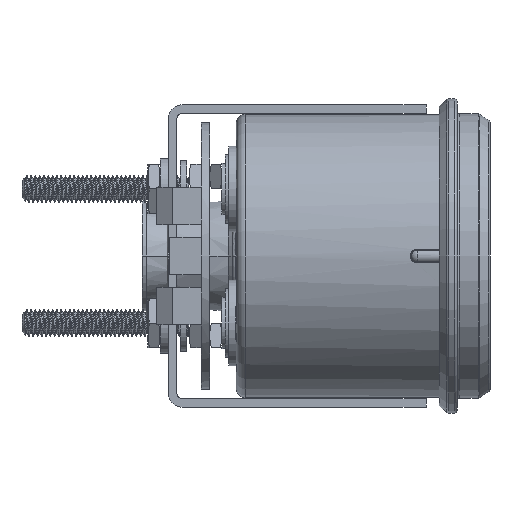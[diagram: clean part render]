
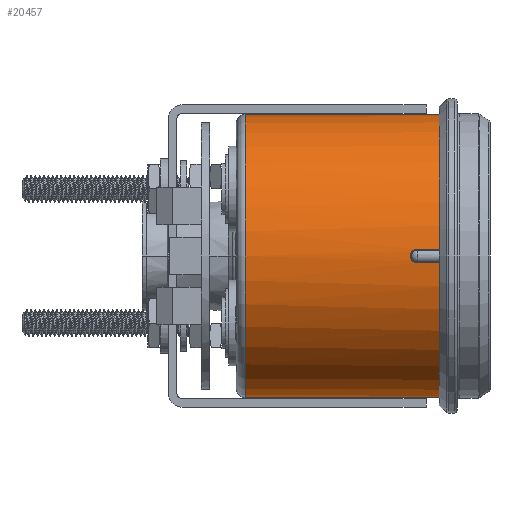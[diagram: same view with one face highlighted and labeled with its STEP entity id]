
A CAD part, front view. The second image highlights one B-rep face of the part: STEP entity #20457.
In plain terms, the highlighted cylindrical face has radius 26.162 mm (diameter 52.324 mm), a partial arc.
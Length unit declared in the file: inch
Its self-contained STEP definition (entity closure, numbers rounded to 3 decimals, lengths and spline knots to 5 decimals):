
#28 = CARTESIAN_POINT ( 'NONE',  ( -0.00637, -1.02878, 0.05013 ) ) ;
#370 = ORIENTED_EDGE ( 'NONE', *, *, #8531, .F. ) ;
#1699 = EDGE_CURVE ( 'NONE', #29066, #22178, #34816, .T. ) ;
#2431 = ORIENTED_EDGE ( 'NONE', *, *, #1699, .T. ) ;
#2566 = DIRECTION ( 'NONE',  ( 0., 0., -1. ) ) ;
#2743 = VECTOR ( 'NONE', #35376, 39.37008 ) ;
#2778 = B_SPLINE_CURVE_WITH_KNOTS ( 'NONE', 3,
 ( #5791, #5000, #4786, #4706, #4658, #4614, #4487, #4459, #4409, #4375, #4248, #4219, #4169, #4119, #4085, #4039, #3982, #3909, #3772, #3686 ),
 .UNSPECIFIED., .F., .F.,
 ( 4, 2, 2, 2, 2, 2, 2, 2, 2, 4 ),
 ( 0., 0.0005, 0.00099, 0.00149, 0.00198, 0.00223, 0.00248, 0.00297, 0.00347, 0.00397 ),
 .UNSPECIFIED. ) ;
#3686 = CARTESIAN_POINT ( 'NONE',  ( -0.19, -1.02878, 0.05013 ) ) ;
#3750 = DIRECTION ( 'NONE',  ( 0., 0., -1. ) ) ;
#3772 = CARTESIAN_POINT ( 'NONE',  ( -0.1966, -1.02878, 0.05013 ) ) ;
#3800 = DIRECTION ( 'NONE',  ( 1., 0., 0. ) ) ;
#3836 = CARTESIAN_POINT ( 'NONE',  ( -0.00637, 0., 0. ) ) ;
#3909 = CARTESIAN_POINT ( 'NONE',  ( -0.20308, -1.02885, 0.04882 ) ) ;
#3982 = CARTESIAN_POINT ( 'NONE',  ( -0.21517, -1.02907, 0.04374 ) ) ;
#4039 = CARTESIAN_POINT ( 'NONE',  ( -0.22063, -1.02923, 0.04005 ) ) ;
#4085 = CARTESIAN_POINT ( 'NONE',  ( -0.22989, -1.02955, 0.03067 ) ) ;
#4119 = CARTESIAN_POINT ( 'NONE',  ( -0.23351, -1.02971, 0.02515 ) ) ;
#4169 = CARTESIAN_POINT ( 'NONE',  ( -0.23722, -1.02988, 0.01606 ) ) ;
#4219 = CARTESIAN_POINT ( 'NONE',  ( -0.23815, -1.02992, 0.01295 ) ) ;
#4248 = CARTESIAN_POINT ( 'NONE',  ( -0.23941, -1.02998, 0.00655 ) ) ;
#4375 = CARTESIAN_POINT ( 'NONE',  ( -0.23973, -1.03, 0.00324 ) ) ;
#4409 = CARTESIAN_POINT ( 'NONE',  ( -0.23973, -1.03, -0.00654 ) ) ;
#4459 = CARTESIAN_POINT ( 'NONE',  ( -0.23843, -1.02993, -0.01311 ) ) ;
#4487 = CARTESIAN_POINT ( 'NONE',  ( -0.23351, -1.02971, -0.02515 ) ) ;
#4614 = CARTESIAN_POINT ( 'NONE',  ( -0.22982, -1.02955, -0.03074 ) ) ;
#4658 = CARTESIAN_POINT ( 'NONE',  ( -0.22067, -1.02923, -0.04001 ) ) ;
#4706 = CARTESIAN_POINT ( 'NONE',  ( -0.21515, -1.02907, -0.04376 ) ) ;
#4786 = CARTESIAN_POINT ( 'NONE',  ( -0.20308, -1.02885, -0.04882 ) ) ;
#5000 = CARTESIAN_POINT ( 'NONE',  ( -0.1966, -1.02878, -0.05013 ) ) ;
#5791 = CARTESIAN_POINT ( 'NONE',  ( -0.19, -1.02878, -0.05013 ) ) ;
#6288 = ORIENTED_EDGE ( 'NONE', *, *, #30515, .T. ) ;
#6545 = CARTESIAN_POINT ( 'NONE',  ( -0.00637, 0., -1.03 ) ) ;
#6597 = CARTESIAN_POINT ( 'NONE',  ( 0., -1.02878, 0.05013 ) ) ;
#6850 = ORIENTED_EDGE ( 'NONE', *, *, #24894, .F. ) ;
#8341 = CARTESIAN_POINT ( 'NONE',  ( -1.4425, 0., 1.03 ) ) ;
#8531 = EDGE_CURVE ( 'NONE', #29066, #11928, #33408, .T. ) ;
#8750 = CARTESIAN_POINT ( 'NONE',  ( -0.00637, 0., 1.03 ) ) ;
#8759 = ORIENTED_EDGE ( 'NONE', *, *, #20562, .T. ) ;
#8948 = ORIENTED_EDGE ( 'NONE', *, *, #21188, .T. ) ;
#9751 = EDGE_CURVE ( 'NONE', #11928, #31198, #26244, .T. ) ;
#9895 = ORIENTED_EDGE ( 'NONE', *, *, #9751, .F. ) ;
#11475 = FACE_OUTER_BOUND ( 'NONE', #16683, .T. ) ;
#11910 = ORIENTED_EDGE ( 'NONE', *, *, #21610, .T. ) ;
#11928 = VERTEX_POINT ( 'NONE', #8750 ) ;
#13063 = LINE ( 'NONE', #13664, #2743 ) ;
#13428 = VERTEX_POINT ( 'NONE', #17930 ) ;
#13664 = CARTESIAN_POINT ( 'NONE',  ( 0., 0., -1.03 ) ) ;
#15592 = CARTESIAN_POINT ( 'NONE',  ( -1.4425, 0., -1.03 ) ) ;
#16683 = EDGE_LOOP ( 'NONE', ( #370, #2431, #6288, #6850, #8759, #8948, #11910, #9895 ) ) ;
#16778 = VECTOR ( 'NONE', #22350, 39.37008 ) ;
#17930 = CARTESIAN_POINT ( 'NONE',  ( -0.00637, -1.02878, -0.05013 ) ) ;
#19298 = DIRECTION ( 'NONE',  ( 1., 0., 0. ) ) ;
#20280 = AXIS2_PLACEMENT_3D ( 'NONE', #39528, #40577, #40618 ) ;
#20457 = ADVANCED_FACE ( 'NONE', ( #11475 ), #39817, .T. ) ;
#20562 = EDGE_CURVE ( 'NONE', #13428, #30928, #35417, .T. ) ;
#21188 = EDGE_CURVE ( 'NONE', #30928, #40301, #2778, .T. ) ;
#21199 = DIRECTION ( 'NONE',  ( 1., 0., 0. ) ) ;
#21610 = EDGE_CURVE ( 'NONE', #40301, #31198, #21965, .T. ) ;
#21965 = LINE ( 'NONE', #6597, #37727 ) ;
#22178 = VERTEX_POINT ( 'NONE', #15592 ) ;
#22350 = DIRECTION ( 'NONE',  ( 1., 0., 0. ) ) ;
#22499 = CARTESIAN_POINT ( 'NONE',  ( 0., 0., 1.03 ) ) ;
#24369 = AXIS2_PLACEMENT_3D ( 'NONE', #40007, #21199, #2566 ) ;
#24894 = EDGE_CURVE ( 'NONE', #13428, #32094, #35009, .T. ) ;
#26244 = CIRCLE ( 'NONE', #28757, 1.03 ) ;
#27039 = VECTOR ( 'NONE', #33030, 39.37008 ) ;
#28757 = AXIS2_PLACEMENT_3D ( 'NONE', #3836, #3800, #3750 ) ;
#29066 = VERTEX_POINT ( 'NONE', #8341 ) ;
#30074 = CARTESIAN_POINT ( 'NONE',  ( -0.19, -1.02878, -0.05013 ) ) ;
#30515 = EDGE_CURVE ( 'NONE', #22178, #32094, #13063, .T. ) ;
#30928 = VERTEX_POINT ( 'NONE', #30074 ) ;
#31198 = VERTEX_POINT ( 'NONE', #28 ) ;
#32094 = VERTEX_POINT ( 'NONE', #6545 ) ;
#33030 = DIRECTION ( 'NONE',  ( -1., 0., 0. ) ) ;
#33408 = LINE ( 'NONE', #22499, #16778 ) ;
#33452 = CARTESIAN_POINT ( 'NONE',  ( 0., -1.02878, -0.05013 ) ) ;
#34816 = CIRCLE ( 'NONE', #20280, 1.03 ) ;
#35009 = CIRCLE ( 'NONE', #24369, 1.03 ) ;
#35376 = DIRECTION ( 'NONE',  ( 1., 0., 0. ) ) ;
#35417 = LINE ( 'NONE', #33452, #27039 ) ;
#37727 = VECTOR ( 'NONE', #19298, 39.37008 ) ;
#38374 = CARTESIAN_POINT ( 'NONE',  ( -0.19, -1.02878, 0.05013 ) ) ;
#38387 = DIRECTION ( 'NONE',  ( 0., 0., -1. ) ) ;
#38858 = CARTESIAN_POINT ( 'NONE',  ( 0., 0., 0. ) ) ;
#39528 = CARTESIAN_POINT ( 'NONE',  ( -1.4425, 0., 0. ) ) ;
#39777 = AXIS2_PLACEMENT_3D ( 'NONE', #38858, #39958, #38387 ) ;
#39817 = CYLINDRICAL_SURFACE ( 'NONE', #39777, 1.03 ) ;
#39958 = DIRECTION ( 'NONE',  ( 1., 0., 0. ) ) ;
#40007 = CARTESIAN_POINT ( 'NONE',  ( -0.00637, 0., 0. ) ) ;
#40301 = VERTEX_POINT ( 'NONE', #38374 ) ;
#40577 = DIRECTION ( 'NONE',  ( 1., 0., 0. ) ) ;
#40618 = DIRECTION ( 'NONE',  ( 0., 0., -1. ) ) ;
